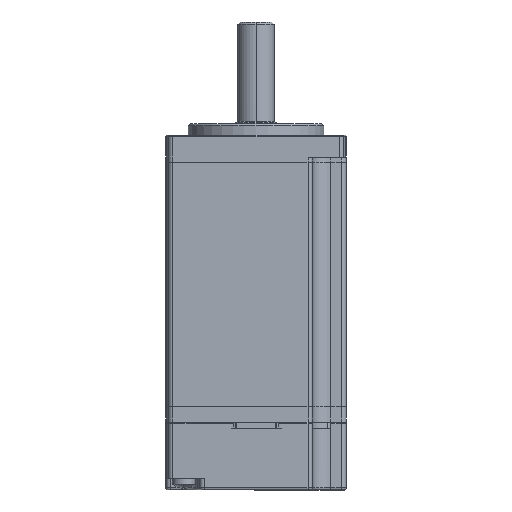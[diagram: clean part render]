
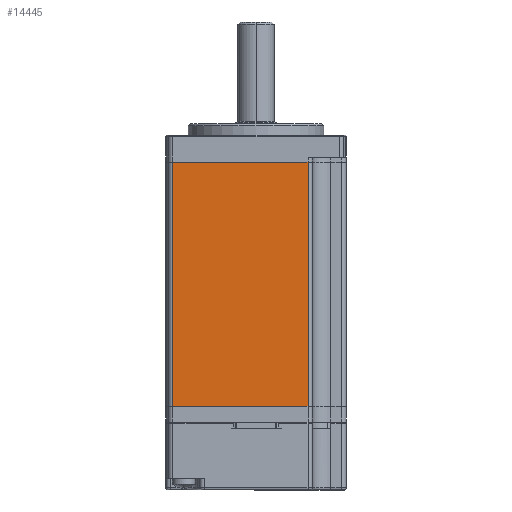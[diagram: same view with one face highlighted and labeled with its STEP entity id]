
A CAD part, front view. The second image highlights one B-rep face of the part: STEP entity #14445.
In plain terms, the highlighted planar face has unit normal (0, -1, 0).
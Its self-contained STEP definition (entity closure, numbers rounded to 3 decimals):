
#1480 = LINE ( 'NONE', #6629, #5589 ) ;
#1769 = PLANE ( 'NONE',  #14129 ) ;
#2286 = VECTOR ( 'NONE', #7140, 1000. ) ;
#2917 = ORIENTED_EDGE ( 'NONE', *, *, #12401, .T. ) ;
#3418 = EDGE_CURVE ( 'NONE', #11501, #15004, #13697, .T. ) ;
#3517 = EDGE_LOOP ( 'NONE', ( #15817, #15140, #12263, #2917 ) ) ;
#4209 = CARTESIAN_POINT ( 'NONE',  ( 20., -20., 54. ) ) ;
#4218 = FACE_OUTER_BOUND ( 'NONE', #3517, .T. ) ;
#4478 = VERTEX_POINT ( 'NONE', #6564 ) ;
#4559 = DIRECTION ( 'NONE',  ( 0., 0., -1. ) ) ;
#4940 = VERTEX_POINT ( 'NONE', #11673 ) ;
#5117 = DIRECTION ( 'NONE',  ( 0., 0., 1. ) ) ;
#5589 = VECTOR ( 'NONE', #6685, 1000. ) ;
#5771 = VECTOR ( 'NONE', #15227, 1000. ) ;
#6564 = CARTESIAN_POINT ( 'NONE',  ( -18.397, -20., 54. ) ) ;
#6629 = CARTESIAN_POINT ( 'NONE',  ( 11.5, -20., 54. ) ) ;
#6685 = DIRECTION ( 'NONE',  ( 0., 0., 1. ) ) ;
#7140 = DIRECTION ( 'NONE',  ( 1., 0., 0. ) ) ;
#7556 = CARTESIAN_POINT ( 'NONE',  ( -18.397, -20., 0. ) ) ;
#8805 = CARTESIAN_POINT ( 'NONE',  ( 20., -20., 0. ) ) ;
#9407 = LINE ( 'NONE', #4209, #5771 ) ;
#10258 = EDGE_CURVE ( 'NONE', #11501, #4478, #16763, .T. ) ;
#11430 = CARTESIAN_POINT ( 'NONE',  ( 20., -20., 54. ) ) ;
#11501 = VERTEX_POINT ( 'NONE', #12782 ) ;
#11673 = CARTESIAN_POINT ( 'NONE',  ( 11.5, -20., 54. ) ) ;
#12263 = ORIENTED_EDGE ( 'NONE', *, *, #3418, .T. ) ;
#12401 = EDGE_CURVE ( 'NONE', #15004, #4940, #1480, .T. ) ;
#12782 = CARTESIAN_POINT ( 'NONE',  ( -18.397, -20., 0. ) ) ;
#12810 = DIRECTION ( 'NONE',  ( 0., 1., 0. ) ) ;
#12990 = CARTESIAN_POINT ( 'NONE',  ( 11.5, -20., 0. ) ) ;
#13071 = EDGE_CURVE ( 'NONE', #4478, #4940, #9407, .T. ) ;
#13083 = VECTOR ( 'NONE', #5117, 1000. ) ;
#13697 = LINE ( 'NONE', #8805, #2286 ) ;
#14129 = AXIS2_PLACEMENT_3D ( 'NONE', #11430, #12810, #4559 ) ;
#14445 = ADVANCED_FACE ( 'NONE', ( #4218 ), #1769, .F. ) ;
#15004 = VERTEX_POINT ( 'NONE', #12990 ) ;
#15140 = ORIENTED_EDGE ( 'NONE', *, *, #10258, .F. ) ;
#15227 = DIRECTION ( 'NONE',  ( 1., 0., 0. ) ) ;
#15817 = ORIENTED_EDGE ( 'NONE', *, *, #13071, .F. ) ;
#16763 = LINE ( 'NONE', #7556, #13083 ) ;
